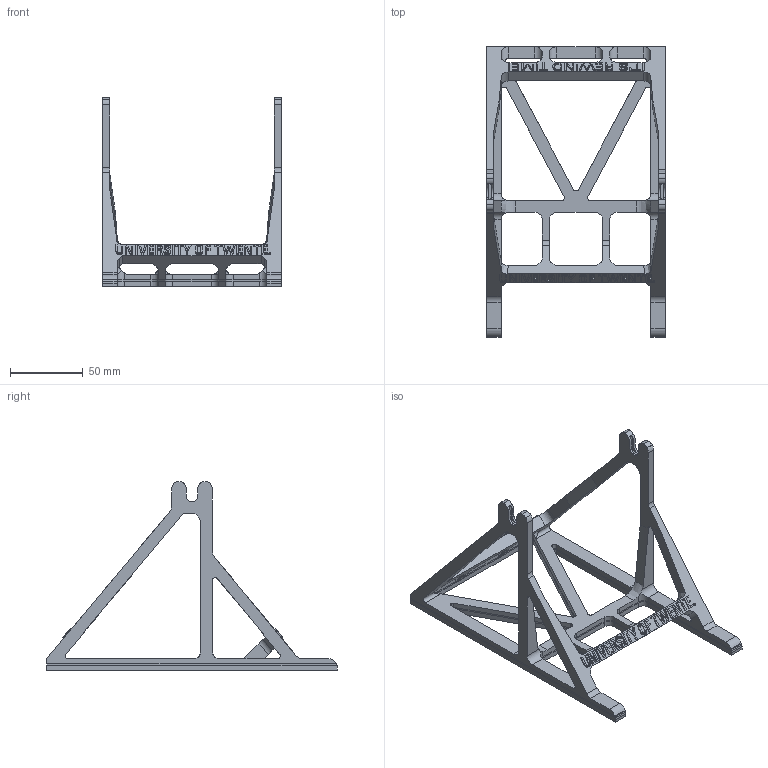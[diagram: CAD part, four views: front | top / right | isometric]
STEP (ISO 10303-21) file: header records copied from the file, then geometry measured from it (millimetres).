
FILE_DESCRIPTION (( 'STEP AP214' ), '1' );
FILE_NAME ('Stand_v3.2.STEP', '2019-04-10T20:10:59', ( '' ), ( '' ), 'SwSTEP 2.0', 'SolidWorks 2018', '' );
FILE_SCHEMA (( 'AUTOMOTIVE_DESIGN' ));
Length unit declared in the file: millimetre
Products named in the file (1): Stand_v3.2
Bounding box: 123 x 200 x 130 mm (x, y, z)
Volume: 124860.5 mm3; surface area: 79508.3 mm2
Topology: 7 solids, 7 shells, 1251 faces, 3829 edges, 2548 vertices
Faces by surface type: plane 849, bspline 204, cylinder 190, cone 6, torus 2
Entity records: 48381 total; most frequent: CARTESIAN_POINT 13947, ORIENTED_EDGE 7658, DIRECTION 5726, EDGE_CURVE 3829, LINE 2918, VECTOR 2918, VERTEX_POINT 2548, AXIS2_PLACEMENT_3D 1404
